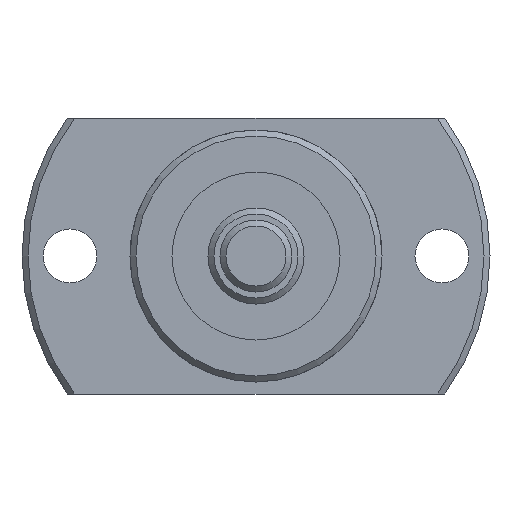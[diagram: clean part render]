
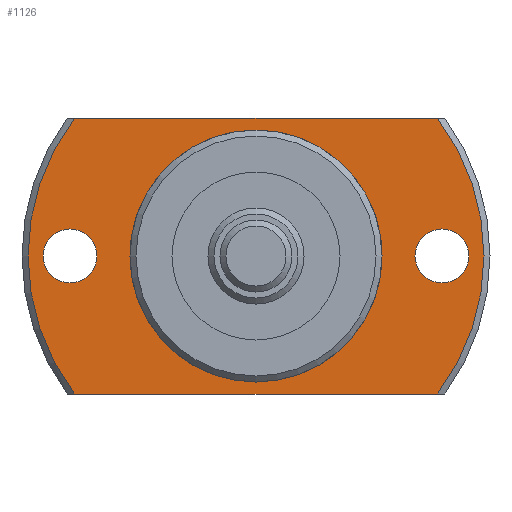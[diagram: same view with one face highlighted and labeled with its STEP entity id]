
A CAD part, left-side view. The second image highlights one B-rep face of the part: STEP entity #1126.
In plain terms, the highlighted planar face has unit normal (-1, 0, 0).
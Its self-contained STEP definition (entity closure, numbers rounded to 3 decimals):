
#115=CIRCLE('',#1251,10.25);
#118=CIRCLE('',#1255,19.);
#124=CIRCLE('',#1266,2.25);
#125=CIRCLE('',#1267,2.25);
#126=CIRCLE('',#1268,19.);
#260=ORIENTED_EDGE('',*,*,#523,.T.);
#261=ORIENTED_EDGE('',*,*,#524,.T.);
#262=ORIENTED_EDGE('',*,*,#512,.F.);
#263=ORIENTED_EDGE('',*,*,#525,.T.);
#264=ORIENTED_EDGE('',*,*,#526,.F.);
#265=ORIENTED_EDGE('',*,*,#527,.T.);
#266=ORIENTED_EDGE('',*,*,#506,.T.);
#506=EDGE_CURVE('',#648,#648,#115,.T.);
#512=EDGE_CURVE('',#653,#654,#118,.T.);
#523=EDGE_CURVE('',#663,#663,#124,.T.);
#524=EDGE_CURVE('',#664,#664,#125,.T.);
#525=EDGE_CURVE('',#653,#665,#738,.T.);
#526=EDGE_CURVE('',#666,#665,#126,.T.);
#527=EDGE_CURVE('',#666,#654,#739,.T.);
#648=VERTEX_POINT('',#1836);
#653=VERTEX_POINT('',#1850);
#654=VERTEX_POINT('',#1852);
#663=VERTEX_POINT('',#1886);
#664=VERTEX_POINT('',#1888);
#665=VERTEX_POINT('',#1890);
#666=VERTEX_POINT('',#1892);
#738=LINE('',#1889,#798);
#739=LINE('',#1893,#799);
#798=VECTOR('',#1515,1000.);
#799=VECTOR('',#1518,1000.);
#884=EDGE_LOOP('',(#260));
#885=EDGE_LOOP('',(#261));
#886=EDGE_LOOP('',(#262,#263,#264,#265));
#887=EDGE_LOOP('',(#266));
#996=FACE_BOUND('',#884,.T.);
#997=FACE_BOUND('',#885,.T.);
#998=FACE_BOUND('',#886,.T.);
#999=FACE_BOUND('',#887,.T.);
#1071=PLANE('',#1265);
#1126=ADVANCED_FACE('',(#996,#997,#998,#999),#1071,.F.);
#1251=AXIS2_PLACEMENT_3D('',#1835,#1477,#1478);
#1255=AXIS2_PLACEMENT_3D('',#1851,#1487,#1488);
#1265=AXIS2_PLACEMENT_3D('',#1884,#1509,#1510);
#1266=AXIS2_PLACEMENT_3D('',#1885,#1511,#1512);
#1267=AXIS2_PLACEMENT_3D('',#1887,#1513,#1514);
#1268=AXIS2_PLACEMENT_3D('',#1891,#1516,#1517);
#1477=DIRECTION('',(1.,0.,0.));
#1478=DIRECTION('',(0.,0.,-1.));
#1487=DIRECTION('',(1.,0.,0.));
#1488=DIRECTION('',(0.,0.,-1.));
#1509=DIRECTION('',(1.,0.,0.));
#1510=DIRECTION('',(0.,0.,-1.));
#1511=DIRECTION('',(1.,0.,0.));
#1512=DIRECTION('',(0.,0.,-1.));
#1513=DIRECTION('',(1.,0.,0.));
#1514=DIRECTION('',(0.,0.,-1.));
#1515=DIRECTION('',(0.,-1.,0.));
#1516=DIRECTION('',(1.,0.,0.));
#1517=DIRECTION('',(0.,0.,-1.));
#1518=DIRECTION('',(0.,1.,0.));
#1835=CARTESIAN_POINT('',(23.,0.,0.));
#1836=CARTESIAN_POINT('',(23.,0.,-10.25));
#1850=CARTESIAN_POINT('',(23.,15.124,-11.5));
#1851=CARTESIAN_POINT('',(23.,0.,0.));
#1852=CARTESIAN_POINT('',(23.,15.124,11.5));
#1884=CARTESIAN_POINT('',(23.,10.25,0.));
#1885=CARTESIAN_POINT('',(23.,-15.5,0.));
#1886=CARTESIAN_POINT('',(23.,-15.5,-2.25));
#1887=CARTESIAN_POINT('',(23.,15.5,0.));
#1888=CARTESIAN_POINT('',(23.,15.5,-2.25));
#1889=CARTESIAN_POINT('',(23.,10.25,-11.5));
#1890=CARTESIAN_POINT('',(23.,-15.124,-11.5));
#1891=CARTESIAN_POINT('',(23.,0.,0.));
#1892=CARTESIAN_POINT('',(23.,-15.124,11.5));
#1893=CARTESIAN_POINT('',(23.,10.25,11.5));
